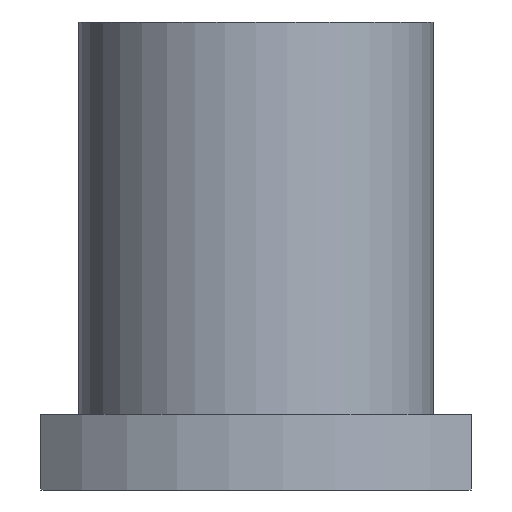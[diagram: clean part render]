
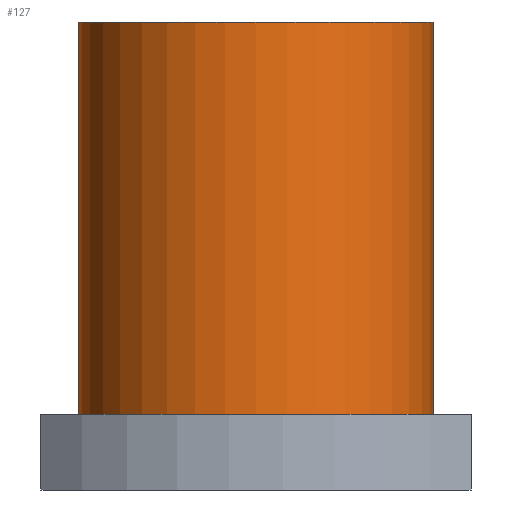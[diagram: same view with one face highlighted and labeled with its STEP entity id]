
A CAD part, front view. The second image highlights one B-rep face of the part: STEP entity #127.
In plain terms, the highlighted cylindrical face has radius 14 mm (diameter 28 mm), a partial arc.
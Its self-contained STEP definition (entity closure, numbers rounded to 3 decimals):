
#86=CARTESIAN_POINT('',(12.,-11.712,0.0));
#87=DIRECTION('',(0.0,0.0,1.0));
#88=DIRECTION('',(-1.0,0.0,0.0));
#89=AXIS2_PLACEMENT_3D('',#86,#87,#88);
#90=CYLINDRICAL_SURFACE('',#89,14.);
#91=CARTESIAN_POINT('',(-2.,-11.712,6.0));
#92=VERTEX_POINT('',#91);
#93=CARTESIAN_POINT('',(-2.,-11.712,37.0));
#94=VERTEX_POINT('',#93);
#95=CARTESIAN_POINT('',(-2.,-11.712,6.0));
#96=DIRECTION('',(0.0,0.0,1.0));
#97=VECTOR('',#96,31.0);
#98=LINE('',#95,#97);
#99=EDGE_CURVE('',#92,#94,#98,.T.);
#100=ORIENTED_EDGE('',*,*,#99,.F.);
#101=CARTESIAN_POINT('',(26.,-11.712,6.));
#102=VERTEX_POINT('',#101);
#103=CARTESIAN_POINT('',(12.,-11.712,6.));
#104=DIRECTION('',(0.0,0.0,-1.0));
#105=DIRECTION('',(-1.0,0.0,0.0));
#106=AXIS2_PLACEMENT_3D('',#103,#104,#105);
#107=CIRCLE('',#106,14.);
#108=EDGE_CURVE('',#102,#92,#107,.T.);
#109=ORIENTED_EDGE('',*,*,#108,.F.);
#110=CARTESIAN_POINT('',(26.,-11.712,37.0));
#111=VERTEX_POINT('',#110);
#112=CARTESIAN_POINT('',(26.,-11.712,37.0));
#113=DIRECTION('',(0.0,0.0,-1.0));
#114=VECTOR('',#113,31.0);
#115=LINE('',#112,#114);
#116=EDGE_CURVE('',#111,#102,#115,.T.);
#117=ORIENTED_EDGE('',*,*,#116,.F.);
#118=CARTESIAN_POINT('',(12.,-11.712,37.0));
#119=DIRECTION('',(0.0,0.0,-1.0));
#120=DIRECTION('',(-1.0,0.0,0.0));
#121=AXIS2_PLACEMENT_3D('',#118,#119,#120);
#122=CIRCLE('',#121,14.);
#123=EDGE_CURVE('',#111,#94,#122,.T.);
#124=ORIENTED_EDGE('',*,*,#123,.T.);
#125=EDGE_LOOP('',(#100,#109,#117,#124));
#126=FACE_OUTER_BOUND('',#125,.T.);
#127=ADVANCED_FACE('',(#126),#90,.T.);
